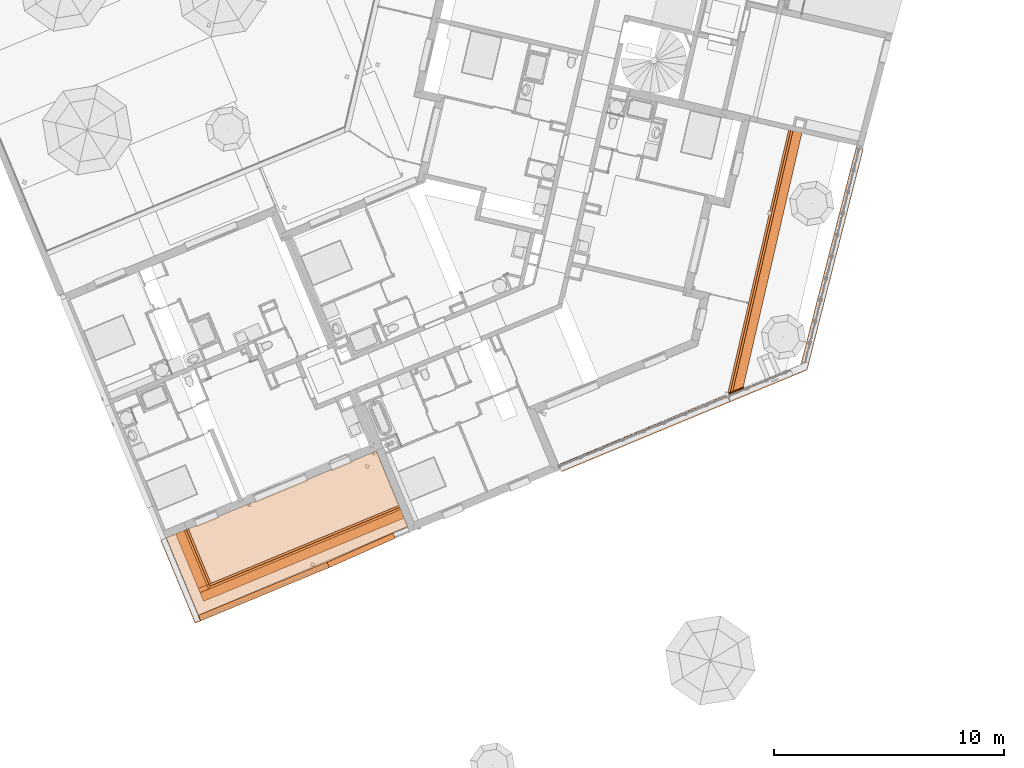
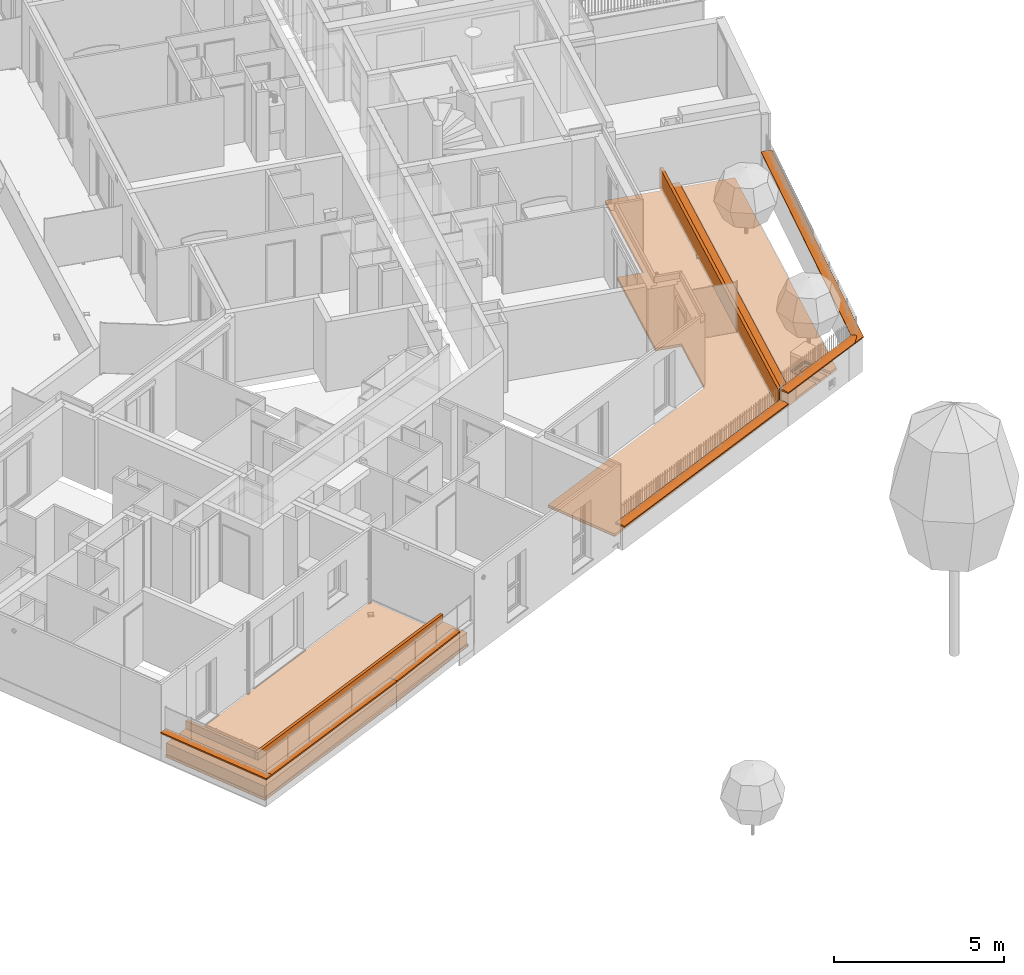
# One storey, part 118 of 119: 13 proxies.
"""IFC2X3 building model written with IfcOpenShell, lengths in metres."""

from ifc_helpers import new_model, entity, si_unit, converted_unit, derived_unit, money_unit, direction, frame, origin_with_axes, place, context, subcontext, project, spatial, open_shell, faceted_brep, surface_model, material, material_list, type_object, element, save


model = new_model("IFC2X3")

# Units and contexts
model_context = context("Model", 3, precision=1e-05, world=origin_with_axes(), true_north=direction((0.0, 1.0)))
body_context = subcontext(model_context, "Body", "Model", "MODEL_VIEW")
ifc_project = project(units=[si_unit("LENGTHUNIT", "METRE"), si_unit("AREAUNIT", "SQUARE_METRE"), si_unit("VOLUMEUNIT", "CUBIC_METRE"), converted_unit("PLANEANGLEUNIT", "DEGREE", entity("IfcPlaneAngleMeasure", 0.0174532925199), si_unit("PLANEANGLEUNIT", "RADIAN"), dimensions=[0, 0, 0, 0, 0, 0, 0]), si_unit("SOLIDANGLEUNIT", "STERADIAN"), money_unit("EUR"), converted_unit("TIMEUNIT", "Year", entity("IfcTimeMeasure", 31556926.0), si_unit("TIMEUNIT", "SECOND"), dimensions=[0, 0, 1, 0, 0, 0, 0]), si_unit("MASSUNIT", "GRAM", prefix="KILO"), si_unit("THERMODYNAMICTEMPERATUREUNIT", "DEGREE_CELSIUS"), si_unit("LUMINOUSINTENSITYUNIT", "LUMEN"), si_unit("ENERGYUNIT", "JOULE", prefix="MEGA"), derived_unit("THERMALCONDUCTANCEUNIT", [(si_unit("POWERUNIT", "WATT"), 1), (si_unit("LENGTHUNIT", "METRE"), -1), (si_unit("THERMODYNAMICTEMPERATUREUNIT", "KELVIN"), -1)]), derived_unit("SPECIFICHEATCAPACITYUNIT", [(si_unit("ENERGYUNIT", "JOULE"), 1), (si_unit("MASSUNIT", "GRAM", prefix="KILO"), -1), (si_unit("THERMODYNAMICTEMPERATUREUNIT", "KELVIN"), -1)]), derived_unit("MASSDENSITYUNIT", [(si_unit("MASSUNIT", "GRAM", prefix="KILO"), 1), (si_unit("VOLUMEUNIT", "CUBIC_METRE"), -1)])], contexts=[model_context])

# Site, building, storey
site_placement = place(None, origin_with_axes())
site = spatial("IfcSite", under=ifc_project, at=site_placement, Name="Site", CompositionType="ELEMENT")
building_placement = place(site_placement, origin_with_axes())
building = spatial("IfcBuilding", under=site, at=building_placement, Name="Bâtiment", CompositionType="ELEMENT")
storey_placement = place(building_placement, origin_with_axes())
storey = spatial("IfcBuildingStorey", under=building, at=storey_placement, Name="Rez-de-chaussée", CompositionType="ELEMENT", Elevation=0.0)

# Proxies
ifc_material_1 = material(Name="Métal - Aluminium")
building_element_proxy_type_1 = type_object("IfcBuildingElementProxyType", Name="Couvertine Métal 270 x 50", PredefinedType="USERDEFINED")
proxy_1_placement = place(storey_placement, frame((-29.4949943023, -32.1778899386, 1.0272978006), z_axis=(0.0, 0.0, 1.0), x_axis=(0.923701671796, 0.383112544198, 0.0)))
element("IfcBuildingElementProxy", 1, at=proxy_1_placement, inside=storey, type_object=building_element_proxy_type_1, material=ifc_material_1, Name="Couvertine métal laqué", ObjectType="CONSTRUCTION ELEMENT", context=body_context, shape_type="Brep", body=[
    faceted_brep([(-0.0201332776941, -0.0250105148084, -0.0442531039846), (-0.0232657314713, -0.0250105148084, -0.0442531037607), (-0.023265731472, -0.0232672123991, -0.0442531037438), (-0.0201332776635, -0.0232672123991, -0.0442531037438), (-0.02500900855, -0.0250105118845, -0.048), (6.30559986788, -0.0250105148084, -0.048), (6.30559986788, -0.0250105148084, 0.0019999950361), (0.245009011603, -0.0250105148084, 0.002000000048), (0.245009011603, -0.0250105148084, 0.0), (-0.0232657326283, -0.0250105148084, -2.72427191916e-10), (-0.0232657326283, -0.0250105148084, -0.0272978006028), (-0.0232657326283, -0.0250105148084, -0.0399754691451), (-0.023265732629, -0.0232672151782, -0.0399754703), (-0.023265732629, -0.0232672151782, -0.0272978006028), (-0.023265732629, -0.0232672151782, 5.91469762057e-10), (0.245009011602, -0.0232672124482, 0.0), (6.30557799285, -0.0232672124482, 0.0), (6.30557799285, -0.0232672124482, -0.0442531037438), (-0.0201332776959, -0.0201347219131, -0.0442531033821), (-0.0167291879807, -0.0167305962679, -0.0416371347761), (6.30549597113, -0.0167305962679, -0.0416371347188), (6.30231552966, 0.236730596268, -0.0416371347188), (6.3022116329, 0.245010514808, -0.048), (6.3022116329, 0.245010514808, 0.0019999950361), (6.30550814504, -0.0177007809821, -0.0399754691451), (6.30223350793, 0.243267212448, 0.0), (6.30223350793, 0.243267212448, -0.0442531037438), (6.30230335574, 0.237700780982, -0.0399754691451), (0.245009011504, 0.245010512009, 0.0020000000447), (0.245009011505, 0.243267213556, 2.28848162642e-09), (0.245009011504, 0.245010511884, -2.72427191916e-10), (-0.0176993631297, -0.0177007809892, -0.0399754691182), (-0.0167291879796, -0.0198630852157, -0.0416371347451), (0.239861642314, 0.236730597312, -0.0416371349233), (0.243265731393, 0.240134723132, -0.0442531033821), (0.245009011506, 0.240134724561, -0.0442531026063), (0.245009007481, 0.245010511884, -0.048), (0.245009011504, 0.245010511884, -0.0442531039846), (0.245009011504, 0.245010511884, -0.0399754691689), (0.245009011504, 0.245010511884, -0.0272978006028), (0.245009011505, 0.243267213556, -0.0272978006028), (0.245009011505, 0.243267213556, -0.0399754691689), (0.245009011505, 0.243267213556, -0.0442531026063), (0.243265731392, 0.243267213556, -0.0442531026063), (0.237699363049, 0.237700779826, -0.0399754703)], [[[0, 1, 2, 3]], [[1, 0, 4, 5, 6, 7, 8, 9, 10, 11]], [[2, 1, 11, 12]], [[3, 2, 12, 13, 14, 15, 16, 17]], [[18, 4, 0, 3]], [[5, 4, 18, 19, 20]], [[21, 22, 23, 6, 5, 20, 24, 17, 16, 25, 26, 27]], [[23, 28, 7, 6]], [[29, 15, 8, 7, 28, 30]], [[15, 14, 9, 8]], [[10, 9, 14, 13]], [[12, 11, 10, 13]], [[16, 15, 29, 25]], [[24, 31, 32, 3, 17]], [[19, 18, 3, 32]], [[20, 19, 31, 24]], [[21, 33, 34, 35, 36, 22]], [[36, 37, 38, 39, 30, 28, 23, 22]], [[40, 41, 42, 26, 25, 29]], [[42, 43, 44, 27, 26]], [[27, 44, 33, 21]], [[30, 39, 40, 29]], [[32, 31, 19]], [[43, 34, 33, 44]], [[34, 43, 42, 35]], [[35, 42, 37, 36]], [[37, 42, 41, 38]], [[39, 38, 41, 40]]]),
])
proxy_2_placement = place(storey_placement, frame((-23.6707910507, -29.7622557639, 1.0272978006), z_axis=(0.0, 0.0, 1.0), x_axis=(0.91379772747, 0.406169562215, 0.0)))
element("IfcBuildingElementProxy", 2, at=proxy_2_placement, inside=storey, type_object=building_element_proxy_type_1, material=ifc_material_1, Name="Couvertine métal laqué", ObjectType="CONSTRUCTION ELEMENT", context=body_context, shape_type="Brep", body=[
    faceted_brep([(-0.000313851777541, -0.025012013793, -0.048), (3.13772027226, -0.025012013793, -0.048), (3.13772027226, -0.025012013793, 0.001999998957), (-0.000313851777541, -0.025012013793, 0.001999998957), (-0.000209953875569, -0.0167320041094, -0.0416371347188), (3.13782417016, -0.0167320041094, -0.0416371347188), (3.1411085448, 0.245012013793, -0.048), (3.1411085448, 0.245012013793, 0.001999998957), (3.1378119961, -0.0177021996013, -0.0399754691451), (3.13774214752, -0.0232686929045, -0.0442531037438), (3.13774214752, -0.0232686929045, 0.0), (3.14108666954, 0.243268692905, 0.0), (3.14108666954, 0.243268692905, -0.0442531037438), (3.14101682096, 0.237702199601, -0.0399754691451), (3.1410046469, 0.236732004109, -0.0416371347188), (0.00307442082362, 0.245012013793, 0.001999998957), (0.00307442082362, 0.245012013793, -0.048), (0.00297052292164, 0.236732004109, -0.0416371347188), (0.00298269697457, 0.237702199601, -0.0399754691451), (0.00305254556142, 0.243268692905, -0.0442531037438), (0.00305254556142, 0.243268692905, 0.0), (-0.000291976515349, -0.0232686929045, 0.0), (-0.000291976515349, -0.0232686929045, -0.0442531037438), (-0.000222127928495, -0.0177021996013, -0.0399754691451)], [[[0, 1, 2, 3]], [[4, 5, 1, 0]], [[6, 7, 2, 1, 5, 8, 9, 10, 11, 12, 13, 14]], [[3, 2, 7, 15]], [[0, 3, 15, 16, 17, 18, 19, 20, 21, 22, 23, 4]], [[23, 8, 5, 4]], [[15, 7, 6, 16]], [[22, 9, 8, 23]], [[21, 10, 9, 22]], [[20, 11, 10, 21]], [[19, 12, 11, 20]], [[18, 13, 12, 19]], [[17, 14, 13, 18]], [[16, 6, 14, 17]]]),
])
proxy_3_placement = place(storey_placement, frame((-29.4949943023, -32.1778899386, 1.0272978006), z_axis=(0.0, 0.0, 1.0), x_axis=(-0.383112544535, 0.923701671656, 0.0)))
element("IfcBuildingElementProxy", 3, at=proxy_3_placement, inside=storey, type_object=building_element_proxy_type_1, material=ifc_material_1, Name="Couvertine métal laqué", ObjectType="CONSTRUCTION ELEMENT", context=body_context, shape_type="Brep", body=[
    faceted_brep([(-0.0232672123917, 0.0201332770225, -0.044253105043), (-0.0232672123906, 0.0232657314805, -0.044253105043), (-0.0250105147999, 0.0232657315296, -0.0442531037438), (-0.0250105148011, 0.0201332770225, -0.044253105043), (-0.0177007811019, 0.0176993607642, -0.0399754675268), (-0.0198630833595, 0.0167291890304, -0.0416371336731), (-0.0250105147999, 0.0232657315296, -0.0272978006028), (3.89716400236, 0.0232657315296, -0.0442531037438), (3.89716400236, 0.0232657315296, 0.0), (-0.0250105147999, 0.0232657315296, 0.0), (-0.0250105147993, 0.0250090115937, -0.0272978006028), (-0.0250105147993, 0.0250090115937, -0.048), (3.89716400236, 0.0250090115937, -0.048), (3.89716400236, 0.0167291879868, -0.0416371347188), (3.89716400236, 0.0176993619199, -0.0399754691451), (3.89716400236, 0.0250090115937, 0.002), (3.89716400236, -0.245009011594, 0.002), (3.89716400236, -0.245009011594, -0.048), (3.89716400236, -0.236729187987, -0.0416371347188), (3.89716400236, -0.23769936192, -0.0399754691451), (3.89716400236, -0.24326573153, -0.0442531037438), (3.89716400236, -0.24326573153, 0.0), (-0.0250105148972, -0.24326573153, 0.0), (0.24326721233, -0.24326573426, -1.12175557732e-09), (-0.0232672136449, -0.24326573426, -1.12175557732e-09), (-0.0250105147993, 0.0250090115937, 0.002000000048), (-0.0250105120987, -0.245009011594, -1.12175557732e-09), (-0.0250105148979, -0.245009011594, 0.002000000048), (0.245010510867, -0.245009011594, -0.048), (-0.0232672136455, -0.245009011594, -1.12175557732e-09), (0.243267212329, -0.245009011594, -1.12175557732e-09), (0.243267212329, -0.245009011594, -0.0272978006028), (0.243267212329, -0.245009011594, -0.0399754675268), (0.24326721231, -0.245009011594, -0.0442531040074), (0.240134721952, -0.245009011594, -0.044253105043), (0.236730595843, -0.23672918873, -0.0416371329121), (0.240134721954, -0.240133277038, -0.0442531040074), (0.237700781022, -0.237699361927, -0.0399754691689), (0.24326721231, -0.24326573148, -0.0442531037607), (0.236730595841, -0.239861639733, -0.0416371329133), (0.240134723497, -0.24326573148, -0.0442531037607), (0.24326721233, -0.243265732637, -0.0399754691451), (0.24326721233, -0.243265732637, -0.0272978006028)], [[[0, 1, 2, 3]], [[4, 1, 0, 5]], [[6, 2, 1, 7, 8, 9]], [[6, 10, 11, 3, 2]], [[3, 11, 12, 13, 5, 0]], [[14, 7, 1, 4]], [[5, 13, 14, 4]], [[14, 13, 12, 15, 16, 17, 18, 19, 20, 21, 8, 7]], [[22, 9, 8, 21, 23, 24]], [[25, 10, 6, 9, 22, 26, 27]], [[12, 11, 10, 25, 15]], [[27, 16, 15, 25]], [[28, 17, 16, 27, 26, 29, 30, 31, 32, 33, 34]], [[35, 18, 17, 28, 36]], [[37, 19, 18, 35]], [[38, 20, 19, 37, 39, 40]], [[23, 21, 20, 38, 41, 42]], [[30, 29, 24, 23]], [[22, 24, 29, 26]], [[30, 23, 42, 31]], [[31, 42, 41, 32]], [[41, 38, 33, 32]], [[33, 38, 40, 34]], [[34, 40, 36, 28]], [[40, 39, 35, 36]], [[37, 35, 39]]]),
])
ifc_material_2 = material(Name="Béton")
building_element_proxy_type_2 = type_object("IfcBuildingElementProxyType", Name="Muret en L H=75 600 x 750", PredefinedType="USERDEFINED")
proxy_4_placement = place(storey_placement, frame((-29.8014081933, -28.0847926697, 0.02), z_axis=(0.0, 0.0, 1.0), x_axis=(0.383112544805, -0.923701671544, 0.0)))
element("IfcBuildingElementProxy", 4, at=proxy_4_placement, inside=storey, type_object=building_element_proxy_type_2, material=ifc_material_2, Name="Muret béton préfabriqué en L H=75", ObjectType="CONSTRUCTION ELEMENT", context=body_context, shape_type="Brep", body=[
    faceted_brep([(2.57819164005, -0.1, 0.75), (2.57819164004, -0.1, 0.74), (2.57819164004, -0.1, 0.2), (2.57819164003, -0.2, 0.1), (2.57819164, -0.6, 0.1), (2.57819164, -0.6, 0.0), (2.57819164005, 0.0, 0.0), (2.57819164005, 0.0, 0.74), (2.57819164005, 0.0, 0.75), (0.0, -0.1, 0.2), (0.0, -0.1, 0.75), (0.0, -0.2, 0.1), (0.0, -0.6, 0.1), (0.0, -0.6, 0.0), (0.0, 0.0, 0.0), (0.0, 0.0, 0.75)], [[[0, 1, 2, 3, 4, 5, 6, 7, 8]], [[9, 2, 1, 0, 10]], [[11, 3, 2, 9]], [[12, 4, 3, 11]], [[13, 5, 4, 12]], [[14, 6, 5, 13]], [[8, 7, 6, 14, 15]], [[15, 10, 0, 8]], [[10, 15, 14, 13, 12, 11, 9]]]),
])
proxy_5_placement = place(storey_placement, frame((-28.8136706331, -30.4662725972, 0.01), z_axis=(0.0, 0.0, 1.0), x_axis=(0.923701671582, 0.383112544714, 0.0)))
element("IfcBuildingElementProxy", 5, at=proxy_5_placement, inside=storey, type_object=building_element_proxy_type_2, material=ifc_material_2, Name="Muret béton préfabriqué en L H=75", ObjectType="CONSTRUCTION ELEMENT", context=body_context, shape_type="Brep", body=[
    faceted_brep([(8.84169313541, -0.147068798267, 0.152931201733), (8.86354562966, -0.140585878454, 0.159414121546), (8.86813239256, -0.13922514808, 0.16077486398), (8.86813239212, -0.1, 0.2), (-0.10999999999, -0.1, 0.2), (-0.199999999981, -0.19, 0.11), (-0.599999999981, -0.19, 0.11), (-0.59999999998, -0.2, 0.1), (8.86813239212, -0.2, 0.1), (8.86813240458, -0.176366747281, 0.123633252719), (8.85813239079, -0.176366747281, 0.123633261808), (8.84292721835, -0.176366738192, 0.123633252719), (8.84169313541, -0.176366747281, 0.123633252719), (8.84169313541, -0.149999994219, 0.150000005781), (8.8416931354, 0.0, 0.152931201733), (8.86354562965, 0.0, 0.159414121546), (8.86813239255, 0.0, 0.16077486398), (8.86813239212, 0.0, 0.75), (8.86813239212, -0.1, 0.75), (-0.0999999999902, -0.1, 0.75), (-0.0999999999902, -0.1, 0.21), (-0.2, 0.0, 0.11), (-0.1, 0.0, 0.21), (-0.6, 0.0, 0.11), (-0.6, 0.0, 0.01), (-0.599999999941, -0.6, 0.01), (-0.599999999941, -0.6, 0.1), (8.86813239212, -0.6, 0.1), (8.86813239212, 0.0, 0.0), (8.86813240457, 0.0, 0.123633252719), (8.86813239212, -0.6, 0.0), (8.85813239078, 0.0, 0.123633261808), (8.84292721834, 0.0, 0.123633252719), (8.8416931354, 0.0, 0.123633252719), (8.8416931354, 0.0, 0.150000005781), (0.0, 0.0, 0.0), (0.0, 0.0, 0.01), (-0.1, 0.0, 0.75), (0.0, -0.6, 0.01), (0.0, -0.6, 0.0)], [[[0, 1, 2, 3, 4, 5, 6, 7, 8, 9, 10, 11, 12, 13]], [[14, 15, 1, 0]], [[15, 16, 2, 1]], [[3, 2, 16, 17, 18]], [[18, 19, 20, 4, 3]], [[21, 5, 4, 20, 22]], [[21, 23, 6, 5]], [[6, 23, 24, 25, 26, 7]], [[27, 8, 7, 26]], [[28, 29, 9, 8, 27, 30]], [[29, 31, 10, 9]], [[31, 32, 11, 10]], [[33, 12, 11, 32]], [[33, 34, 13, 12]], [[14, 0, 13, 34]], [[17, 16, 15, 14, 34, 33, 32, 31, 29, 28, 35, 36, 24, 23, 21, 22, 37]], [[18, 17, 37, 19]], [[37, 22, 20, 19]], [[24, 36, 38, 25]], [[26, 25, 38, 39, 30, 27]], [[28, 30, 39, 35]], [[36, 35, 39, 38]]]),
])
proxy_6_placement = place(storey_placement, frame((-6.3160893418, -22.2083622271, 0.02), z_axis=(0.0, 0.0, 1.0), x_axis=(0.224876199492, 0.974387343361, 0.0)))
element("IfcBuildingElementProxy", 6, at=proxy_6_placement, inside=storey, type_object=building_element_proxy_type_2, material=ifc_material_2, Name="Muret béton préfabriqué en L H=75", ObjectType="CONSTRUCTION ELEMENT", context=body_context, shape_type="Brep", body=[
    faceted_brep([(-0.061433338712, 0.0, 0.0), (-0.0479202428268, -0.0189291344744, 0.0), (-0.0479202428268, -0.0189291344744, 0.75), (-0.061433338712, 0.0, 0.75), (-0.0214043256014, 0.0, 0.0), (-0.0214043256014, 0.0, 0.75)], [[[0, 1, 2, 3]], [[0, 4, 1]], [[4, 5, 2, 1]], [[3, 2, 5]], [[3, 5, 4, 0]]]),
    faceted_brep([(12.0021408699, -0.2, 0.1), (0.142775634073, -0.2, 0.1), (0.428326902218, -0.6, 0.1), (12.0021408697, -0.6, 0.1), (12.0021408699, -0.1, 0.2), (0.0713878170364, -0.1, 0.2), (0.0, 0.0, 0.0), (0.428326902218, -0.6, 0.0), (0.0713878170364, -0.1, 0.75), (0.0, 0.0, 0.75), (12.0021408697, -0.6, 0.0), (12.0021408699, -0.1, 0.75), (12.0021408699, 0.0, 0.0), (12.0021408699, 0.0, 0.75)], [[[0, 1, 2, 3]], [[4, 5, 1, 0]], [[6, 7, 2, 1, 5, 8, 9]], [[3, 2, 7, 10]], [[11, 4, 0, 3, 10, 12, 13]], [[11, 8, 5, 4]], [[10, 7, 6, 12]], [[13, 9, 8, 11]], [[12, 6, 9, 13]]]),
])
ifc_material_3 = material(Name="Béton préfabriqué")
building_element_proxy_type_3 = type_object("IfcBuildingElementProxyType", Name="Couronnement mur 0401163462 330 x 60", PredefinedType="USERDEFINED")
proxy_7_placement = place(storey_placement, frame((-0.560370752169, -11.5116453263, 0.853898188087), z_axis=(0.0, 0.0, 1.0), x_axis=(-0.246645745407, -0.969105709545, 0.0)))
element("IfcBuildingElementProxy", 7, at=proxy_7_placement, inside=storey, type_object=building_element_proxy_type_3, material=ifc_material_3, Name="Chapeau béton préfa", ObjectType="ELEMENTS", context=body_context, shape_type="Brep", body=[
    faceted_brep([(0.0, 0.0294642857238, 0.0599999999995), (9.86714161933, 0.029464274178, 0.0600000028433), (9.93500436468, 0.165000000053, 0.039999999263), (0.0, 0.165000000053, 0.04), (0.0, -0.0294642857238, 0.0599999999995), (9.91123501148, -0.0294642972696, 0.0600000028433), (10.1819273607, -0.165000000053, 0.039999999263), (9.93500436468, 0.165000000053, 0.0), (0.0, 0.165000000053, 0.0), (0.0, -0.165000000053, 0.0), (0.0, -0.165000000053, 0.04), (10.1819273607, -0.165000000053, 0.0)], [[[0, 1, 2, 3]], [[4, 5, 1, 0]], [[6, 2, 1, 5]], [[3, 2, 7, 8]], [[0, 3, 8, 9, 10, 4]], [[10, 6, 5, 4]], [[11, 7, 2, 6]], [[8, 7, 11, 9]], [[9, 11, 6, 10]]]),
])
proxy_8_placement = place(storey_placement, frame((-2.99042054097, -21.0596516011, 0.853898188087), z_axis=(0.0, 0.0, 1.0), x_axis=(-0.923701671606, -0.383112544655, 0.0)))
element("IfcBuildingElementProxy", 8, at=proxy_8_placement, inside=storey, type_object=building_element_proxy_type_3, material=ifc_material_3, Name="Chapeau béton préfa", ObjectType="ELEMENTS", context=body_context, shape_type="Brep", body=[
    faceted_brep([(3.55363402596, 0.0294642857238, 0.0599999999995), (0.0588461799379, 0.0294642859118, 0.0600000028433), (0.0147527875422, -0.0294642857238, 0.0600000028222), (3.55363402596, -0.0294642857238, 0.0599999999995), (3.55363402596, 0.165000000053, 0.04), (0.329538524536, 0.164999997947, 0.039999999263), (0.0826155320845, -0.164999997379, 0.0399999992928), (3.55363402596, -0.165000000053, 0.04), (3.55363402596, -0.165000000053, 0.0), (3.55363402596, 0.165000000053, 0.0), (0.329538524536, 0.164999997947, 0.0), (0.0826155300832, -0.165000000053, 0.0)], [[[0, 1, 2, 3]], [[4, 5, 1, 0]], [[5, 6, 2, 1]], [[3, 2, 6, 7]], [[3, 7, 8, 9, 4, 0]], [[9, 10, 5, 4]], [[10, 11, 6, 5]], [[7, 6, 11, 8]], [[8, 11, 10, 9]]]),
])
proxy_9_placement = place(storey_placement, frame((-6.26563244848, -22.4180715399, 0.455111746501), z_axis=(0.0, 0.0, 1.0), x_axis=(-0.923701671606, -0.383112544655, 0.0)))
element("IfcBuildingElementProxy", 9, at=proxy_9_placement, inside=storey, type_object=building_element_proxy_type_3, material=ifc_material_3, Name="Chapeau béton préfa", ObjectType="ELEMENTS", context=body_context, shape_type="Brep", body=[
    faceted_brep([(0.0, 0.165000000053, 0.0), (7.93492170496, 0.165000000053, 0.0), (7.93492170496, -0.165000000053, 0.0), (0.0, -0.165000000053, 0.0), (0.0, 0.165000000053, 0.04), (7.93492170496, 0.165000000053, 0.04), (7.93492170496, 0.0294642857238, 0.0599999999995), (7.93492170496, -0.0294642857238, 0.0599999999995), (7.93492170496, -0.165000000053, 0.04), (0.0, -0.165000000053, 0.04), (0.0, -0.0294642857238, 0.0599999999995), (0.0, 0.0294642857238, 0.0599999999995)], [[[0, 1, 2, 3]], [[4, 5, 1, 0]], [[2, 1, 5, 6, 7, 8]], [[3, 2, 8, 9]], [[4, 0, 3, 9, 10, 11]], [[11, 6, 5, 4]], [[10, 7, 6, 11]], [[9, 8, 7, 10]]]),
])
building_element_proxy_type_4 = type_object("IfcBuildingElementProxyType", Name="Béton 50", PredefinedType="USERDEFINED")
proxy_10_placement = place(storey_placement, frame((-6.32757678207, -22.2131267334, 0.02), z_axis=(0.0, 0.0, 1.0), x_axis=(0.923701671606, 0.383112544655, 0.0)))
element("IfcBuildingElementProxy", 10, at=proxy_10_placement, inside=storey, type_object=building_element_proxy_type_4, material=ifc_material_2, Name="M_Ext-024", ObjectType="CONSTRUCTION ELEMENT", context=body_context, shape_type="Brep", body=[
    faceted_brep([(0.762115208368, 0.0, 0.0), (0.762115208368, 0.0, 0.0900000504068), (0.762115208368, -0.0255064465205, 0.0900000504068), (0.762115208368, -0.0255064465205, 0.130000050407), (0.762115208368, 0.0, 0.130000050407), (0.762115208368, 0.0, 0.75), (0.762115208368, -0.05, 0.75), (0.762115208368, -0.05, 0.0), (0.749636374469, 0.0, 0.130000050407), (0.749636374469, 0.0, 0.0900000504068), (0.0, 0.0, 0.0), (0.0, 0.0, 0.75), (0.731370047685, -0.0255874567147, 0.0900000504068), (0.731370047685, -0.0255874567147, 0.130000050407), (0.0, -0.05, 0.75), (0.0, -0.05, 0.0)], [[[0, 1, 2, 3, 4, 5, 6, 7]], [[8, 9, 1, 0, 10, 11, 5, 4]], [[12, 2, 1, 9]], [[13, 3, 2, 12]], [[8, 4, 3, 13]], [[11, 14, 6, 5]], [[14, 15, 7, 6]], [[15, 10, 0, 7]], [[12, 9, 8, 13]], [[10, 15, 14, 11]]]),
])
ifc_material_4 = material(Name="Divers - Vide")
ifc_material_5 = material(Name="Etanchéité - Bitume")
ifc_material_list = material_list([ifc_material_4, ifc_material_5])
building_element_proxy_type_5 = type_object("IfcBuildingElementProxyType", Name="6 -Etanchéité RDC protections multiples 90", PredefinedType="NOTDEFINED")
proxy_11_placement = place(storey_placement, frame((-30.7896620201, -28.4946787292, 0.09), z_axis=(0.0, 0.0, 1.0), x_axis=(1.0, 0.0, 0.0)))
element("IfcBuildingElementProxy", 11, at=proxy_11_placement, inside=storey, type_object=building_element_proxy_type_5, material=ifc_material_list, Name="Dalle_003", context=body_context, shape_type="SurfaceModel", body=[
    surface_model("IfcShellBasedSurfaceModel", [(1.41665137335, -3.41609723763, -0.08), (1.41665137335, -3.41609723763, 0.0), (1.41090016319, -3.40224375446, 0.0), (1.41090016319, -3.40224375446, -0.08), (1.41090544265, -3.40224156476, 0.0), (1.41090544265, -3.40224156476, -0.08)], [open_shell([[[0, 1, 2, 3]], [[4, 1, 0, 5]]])]),
    faceted_brep([(9.18550923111, 3.79352333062, -0.08), (9.17627220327, 3.78969220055, -0.08), (9.17052550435, 3.80354770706, -0.08), (9.17976254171, 3.80737882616, -0.08), (9.18550923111, 3.79352333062, 8.21154394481e-10), (9.17627220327, 3.78969220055, 8.21154394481e-10), (9.1705255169, 3.80354770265, -1.55489260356e-10), (9.17976254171, 3.80737882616, 0.0)], [[[0, 1, 2, 3]], [[4, 5, 1, 0]], [[1, 5, 6, 2]], [[3, 2, 6, 7]], [[4, 0, 3, 7]], [[5, 4, 7, 6]]]),
    faceted_brep([(0.994000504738, 0.396030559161, 0.0), (1.97599138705, -1.971593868, 0.0), (10.1582630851, 1.42206777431, 2.53548654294e-10), (9.17627220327, 3.78969220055, 8.21154394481e-10), (9.1577981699, 3.78202994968, -4.66471389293e-10), (1.97599138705, -1.971593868, -0.07), (0.994000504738, 0.396030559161, -0.07), (1.97599138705, -1.971593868, -0.08), (10.1582630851, 1.42206777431, -0.08), (9.17627220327, 3.78969220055, -0.08), (0.929448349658, 0.369257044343, -0.08), (0.929448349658, 0.369257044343, -0.07), (0.923701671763, 0.383112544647, -0.07), (0.434032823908, 0.180018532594, -0.07), (1.4217703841, -2.20146139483, -0.07), (1.65163791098, -2.75568239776, -0.07), (2.20585891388, -2.52581487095, -0.07), (2.20585891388, -2.52581487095, -0.08), (10.388130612, 0.86784677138, -0.08), (10.5585983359, 0.456841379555, -0.08), (10.5376980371, 0.447690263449, -0.08), (10.5322806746, 0.460751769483, -0.08), (9.90366065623, 0.200026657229, -0.08), (7.03038557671, -1.06069190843, -0.08), (1.4163065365, -3.38917541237, -0.08), (0.00924223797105, 0.00382057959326, -0.08), (5.02134136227e-06, -1.00638169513e-05, -0.08), (0.0, 0.0, -0.08), (0.923701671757, 0.383112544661, -0.08), (0.0, 0.0, 0.0), (0.434032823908, 0.180018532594, 0.0), (1.65163791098, -2.75568239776, 0.0), (10.388130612, 0.86784677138, 1.20681603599e-10), (10.5585983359, 0.456841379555, 0.0), (10.5376980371, 0.447690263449, 0.0), (10.5322806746, 0.460751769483, 0.0), (9.90366065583, 0.200026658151, 0.0), (7.03038557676, -1.06069190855, 0.0), (1.4163065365, -3.38917541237, 0.0), (0.00924223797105, 0.00382057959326, 0.0), (5.02134136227e-06, -1.00638169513e-05, 0.0)], [[[0, 1, 2, 3, 4]], [[5, 1, 0, 6]], [[1, 5, 7, 8, 2]], [[3, 2, 8, 9]], [[6, 0, 4, 3, 9, 10, 11]], [[5, 6, 11, 12, 13, 14, 15, 16]], [[16, 17, 7, 5]], [[7, 17, 18, 19, 20, 21, 22, 23, 24, 25, 26, 27, 28, 10, 9, 8]], [[12, 11, 10, 28]], [[13, 12, 28, 27, 29, 30]], [[14, 13, 30, 31, 15]], [[15, 31, 32, 18, 17, 16]], [[19, 18, 32, 33]], [[33, 34, 20, 19]], [[34, 35, 21, 20]], [[21, 35, 36, 22]], [[37, 23, 22, 36]], [[38, 24, 23, 37]], [[39, 25, 24, 38]], [[40, 26, 25, 39]], [[40, 29, 27, 26]], [[30, 29, 40, 39, 38, 37, 36, 35, 34, 33, 32, 31]]]),
    faceted_brep([(9.90960298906, 0.191665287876, -0.0895293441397), (9.90758561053, 0.190828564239, -0.0895293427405), (7.03431053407, -1.06989000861, -0.0895293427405), (7.03632791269, -1.06905328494, -0.0895293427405), (7.04205575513, -1.08286337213, -0.0895293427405), (9.91626664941, 0.175598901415, -0.0895293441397), (10.5361118, 0.451514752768, -0.08), (9.90758561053, 0.190828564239, -0.08), (9.90960298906, 0.191665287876, -0.09), (10.5361118, 0.451514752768, -0.09), (7.03431053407, -1.06989000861, -0.08), (1.41090544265, -3.40224156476, -0.08), (1.41090544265, -3.40224156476, -0.09), (7.03632791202, -1.06905328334, -0.09), (7.04205575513, -1.08286337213, -0.09), (9.91626664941, 0.175598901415, -0.09), (10.5376980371, 0.447690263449, -0.08), (10.5677604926, 0.460852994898, -0.08), (9.17976254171, 3.80737882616, -0.08), (9.17052550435, 3.80354770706, -0.08), (9.17627218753, 3.78969219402, -0.08), (0.929448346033, 0.369257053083, -0.08), (0.923701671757, 0.383112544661, -0.08), (0.0, 0.0, -0.08), (0.0, 0.0, -0.09), (0.923701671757, 0.383112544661, -0.09), (0.929448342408, 0.369257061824, -0.09), (9.17627218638, 3.78969219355, -0.09), (9.17052550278, 3.80354770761, -0.09), (9.17976254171, 3.80737882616, -0.09), (10.5677604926, 0.460852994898, -0.09), (10.5376980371, 0.447690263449, -0.09)], [[[0, 1, 2, 3, 4, 5]], [[6, 7, 1, 0, 8, 9]], [[2, 1, 7, 10]], [[3, 2, 10, 11, 12, 13]], [[14, 4, 3, 13]], [[5, 4, 14, 15]], [[0, 5, 15, 8]], [[11, 10, 7, 6, 16, 17, 18, 19, 20, 21, 22, 23]], [[9, 8, 15, 14, 13, 12, 24, 25, 26, 27, 28, 29, 30, 31]], [[9, 31, 16, 6]], [[24, 12, 11, 23]], [[17, 16, 31, 30]], [[18, 17, 30, 29]], [[29, 28, 19, 18]], [[27, 20, 19, 28]], [[21, 20, 27, 26]], [[25, 22, 21, 26]], [[23, 22, 25, 24]]]),
])
proxy_12_placement = place(storey_placement, frame((-14.6460352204, -23.0176551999, 0.09), z_axis=(0.0, 0.0, 1.0), x_axis=(1.0, 0.0, 0.0)))
element("IfcBuildingElementProxy", 12, at=proxy_12_placement, inside=storey, type_object=building_element_proxy_type_5, material=ifc_material_list, Name="Dalle_003", context=body_context, shape_type="Brep", body=[
    faceted_brep([(9.01089881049, 1.09172356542, 0.0), (9.02242553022, 1.09650436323, 0.0), (9.03219736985, 1.07294401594, 0.0), (9.97347237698, 1.4662552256, 0.0), (9.60652009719, 2.35099376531, 0.0), (9.79126043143, 2.42761627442, 0.0), (10.0683709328, 2.54255003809, 0.0), (10.253111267, 2.6191725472, 0.0), (10.6193569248, 1.7361377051, 0.0), (10.881339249, 1.84560686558, 0.0), (13.1729367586, 11.7885688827, 0.0), (11.5652257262, 12.159608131, 0.0), (9.01089881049, 1.09172356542, -0.07), (9.02242553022, 1.09650436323, -0.07), (9.03219736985, 1.07294401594, -0.07), (8.32233841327, 0.776329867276, -0.07), (8.32233841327, 0.776329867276, 0.0), (0.968684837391, -2.2963899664, 0.0), (0.968684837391, -2.2963899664, -0.08), (9.97347237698, 1.4662552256, -0.08), (9.60652009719, 2.35099376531, -0.08), (9.79126043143, 2.42761627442, -0.08), (10.0683709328, 2.54255003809, -0.08), (10.253111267, 2.6191725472, -0.08), (10.6193569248, 1.7361377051, -0.08), (10.881339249, 1.84560686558, -0.08), (13.1729367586, 11.7885688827, -0.08), (10.9805933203, 12.2945338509, -0.07), (11.5652257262, 12.159608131, -0.07), (9.28028740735, 12.6869428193, -0.08), (9.28028740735, 12.6869428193, 0.0), (9.59460706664, 12.6144018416, 0.0), (10.9805933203, 12.2945338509, 0.0), (8.32994587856, 0.809292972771, -0.07), (8.31845843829, 0.80452846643, -0.07), (8.32513255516, 0.788436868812, -0.07), (8.32513255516, 0.788436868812, 0.0), (8.31845843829, 0.80452846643, 0.0), (8.32994587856, 0.809292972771, 0.0), (9.28366055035, 12.7015586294, 0.0), (9.27878860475, 12.7026830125, 0.0), (9.27541546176, 12.6880672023, 0.0), (8.40469481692, 8.91523940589, -2.297642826e-09), (8.39495093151, 8.9174881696, -2.297642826e-09), (7.62518494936, 9.09514036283, 0.0), (6.76278299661, 5.35835742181, 0.0), (7.54229289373, 5.17845645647, 0.0), (7.01627641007, 2.89922990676, 0.0), (0.013068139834, -0.00540589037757, 0.0), (0.964066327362, -2.29830552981, 0.0), (0.964066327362, -2.29830552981, -0.08), (0.013068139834, -0.00540589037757, -0.08), (7.01627641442, 2.89922990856, -0.08), (7.54229289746, 5.17845645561, -0.08), (6.76278299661, 5.35835742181, -0.08), (7.62518494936, 9.09514036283, -0.08), (8.40469481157, 8.91523938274, -0.08), (9.27878860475, 12.7026830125, -0.08), (9.28366055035, 12.7015586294, -0.08)], [[[0, 1, 2, 3, 4, 5, 6, 7, 8, 9, 10, 11]], [[1, 0, 12, 13]], [[14, 2, 1, 13]], [[14, 15, 16, 17, 18, 19, 3, 2]], [[4, 3, 19, 20]], [[21, 5, 4, 20]], [[22, 6, 5, 21]], [[6, 22, 23, 7]], [[24, 8, 7, 23]], [[8, 24, 25, 9]], [[26, 10, 9, 25]], [[27, 28, 11, 10, 26, 29, 30, 31, 32]], [[12, 0, 11, 28]], [[33, 34, 35, 15, 14, 13, 12, 28, 27]], [[35, 36, 16, 15]], [[37, 38, 32, 31, 30, 39, 40, 41, 42, 43, 44, 45, 46, 47, 48, 49, 17, 16, 36]], [[49, 50, 18, 17]], [[22, 21, 20, 19, 18, 50, 51, 52, 53, 54, 55, 56, 57, 58, 29, 26, 25, 24, 23]], [[58, 39, 30, 29]], [[38, 33, 27, 32]], [[33, 38, 37, 34]], [[37, 36, 35, 34]], [[57, 40, 39, 58]], [[41, 40, 57, 56, 42]], [[55, 44, 43, 42, 56]], [[54, 45, 44, 55]], [[46, 45, 54, 53]], [[53, 52, 47, 46]], [[48, 47, 52, 51]], [[48, 51, 50, 49]]]),
    faceted_brep([(10.1449934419, 2.35780970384, -0.08), (10.1449934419, 2.35780970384, 0.0), (10.4348184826, 1.65902842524, 0.0), (10.4348184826, 1.65902842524, -0.08), (9.86788294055, 2.24287594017, 0.0), (9.86788294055, 2.24287594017, -0.08), (10.1580108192, 1.54336450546, 0.0), (10.1580108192, 1.54336450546, -0.08)], [[[0, 1, 2, 3]], [[4, 1, 0, 5]], [[1, 4, 6, 2]], [[6, 7, 3, 2]], [[5, 0, 3, 7]], [[4, 5, 7, 6]]]),
    faceted_brep([(9.28366055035, 12.7015586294, -0.09), (9.27878860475, 12.7026830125, -0.09), (9.27878860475, 12.7026830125, -0.08), (9.28366055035, 12.7015586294, -0.08), (9.26567160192, 12.6903159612, -0.09), (9.27541546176, 12.6880672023, -0.09), (9.28028740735, 12.6869428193, -0.09), (9.59460706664, 12.6144018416, -0.09), (13.1729367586, 11.7885688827, -0.09), (10.881339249, 1.84560686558, -0.09), (0.968684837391, -2.2963899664, -0.09), (0.954829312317, -2.30213665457, -0.09), (0.0, 0.0, -0.09), (7.00769015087, 2.90649469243, -0.09), (7.53030023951, 5.17096135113, -0.09), (6.75079036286, 5.35086231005, -0.09), (7.61768983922, 9.1071329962, -0.09), (8.39719971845, 8.92723203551, -0.09), (9.27541546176, 12.6880672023, -0.08), (9.26567160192, 12.6903159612, -0.08), (8.39719971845, 8.92723203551, -0.08), (7.61768983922, 9.1071329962, -0.08), (6.75079036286, 5.35086231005, -0.08), (7.53030023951, 5.17096135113, -0.08), (7.00769015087, 2.90649469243, -0.08), (0.0, 0.0, -0.08), (0.954829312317, -2.30213665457, -0.08), (0.968684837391, -2.2963899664, -0.08), (10.881339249, 1.84560686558, -0.08), (13.1729367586, 11.7885688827, -0.08), (9.28028740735, 12.6869428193, -0.08)], [[[0, 1, 2, 3]], [[4, 5, 1, 0, 6, 7, 8, 9, 10, 11, 12, 13, 14, 15, 16, 17]], [[5, 18, 2, 1]], [[2, 18, 19, 20, 21, 22, 23, 24, 25, 26, 27, 28, 29, 30, 3]], [[6, 0, 3, 30]], [[4, 19, 18, 5]], [[30, 29, 8, 7, 6]], [[9, 8, 29, 28]], [[28, 27, 10, 9]], [[27, 26, 11, 10]], [[26, 25, 12, 11]], [[25, 24, 13, 12]], [[24, 23, 14, 13]], [[23, 22, 15, 14]], [[22, 21, 16, 15]], [[21, 20, 17, 16]], [[20, 19, 4, 17]]]),
])
ifc_material_6 = material(Name="Env. - Terre")
building_element_proxy_type_6 = type_object("IfcBuildingElementProxyType", Name="Env. - Terre", PredefinedType="NOTDEFINED")
proxy_13_placement = place(storey_placement, frame((-30.7617314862, -31.8577072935, 0.0413193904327), z_axis=(0.0, 0.0, 1.0), x_axis=(1.0, 0.0, 0.0)))
element("IfcBuildingElementProxy", 13, at=proxy_13_placement, inside=storey, type_object=building_element_proxy_type_6, material=ifc_material_6, Name="TER-004", context=body_context, shape_type="Brep", body=[
    faceted_brep([(0.0, 3.37350028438, 0.45), (1.3991858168, 0.0, 0.45), (10.5073455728, 3.86304989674, 0.45), (10.177880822, 4.69655729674, 0.45), (1.89400194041, 1.26075327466, 0.45), (0.867953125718, 3.73460336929, 0.45), (1.3991858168, 0.0, 0.0), (0.0, 3.37350028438, 0.0), (10.5073455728, 3.86304989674, 0.0), (10.177880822, 4.69655729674, 0.0), (1.89400194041, 1.26075327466, 0.0), (0.867953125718, 3.73460336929, 0.0)], [[[0, 1, 2, 3, 4, 5]], [[6, 1, 0, 7]], [[8, 2, 1, 6]], [[9, 3, 2, 8]], [[10, 4, 3, 9]], [[11, 5, 4, 10]], [[7, 0, 5, 11]], [[7, 11, 10, 9, 8, 6]]]),
])

save(model, "model.ifc")
